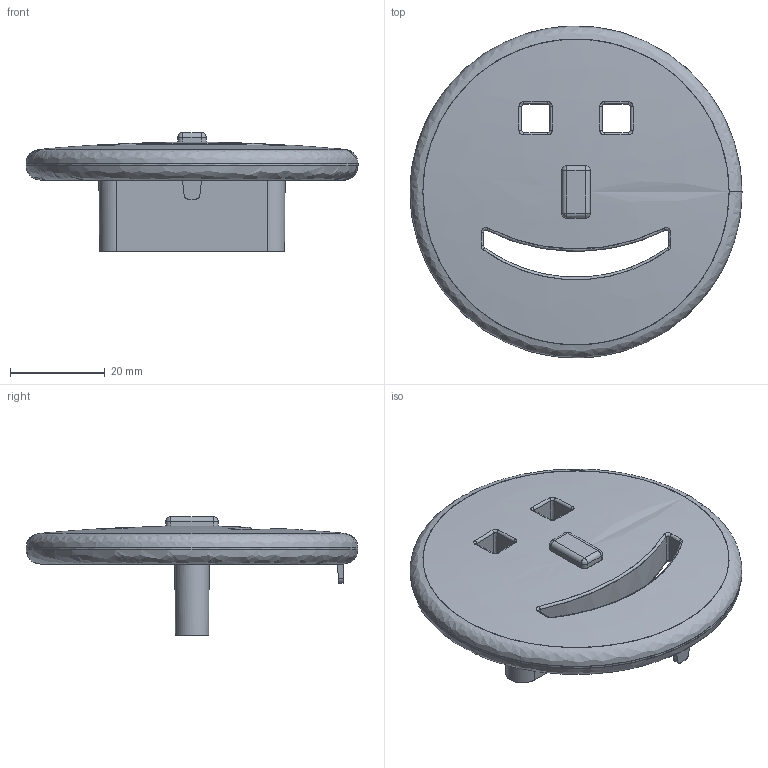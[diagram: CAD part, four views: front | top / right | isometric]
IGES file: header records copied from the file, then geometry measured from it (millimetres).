
Start section: C
Global section: file name: 8166-70.igs; native system: By Siemens PLM Incorporated; preprocessor: XPlus GENERIC/IGES 16.0.42; author: Author; organization: Title; date: 20231119.130650; units: millimetre
Bounding box: 70 x 69.96 x 25 mm (x, y, z)
Surface area: 11561.2 mm2 (no closed solid volume)
Topology: 0 solids, 0 shells, 119 faces, 584 edges, 580 vertices
Faces by surface type: bspline 119
